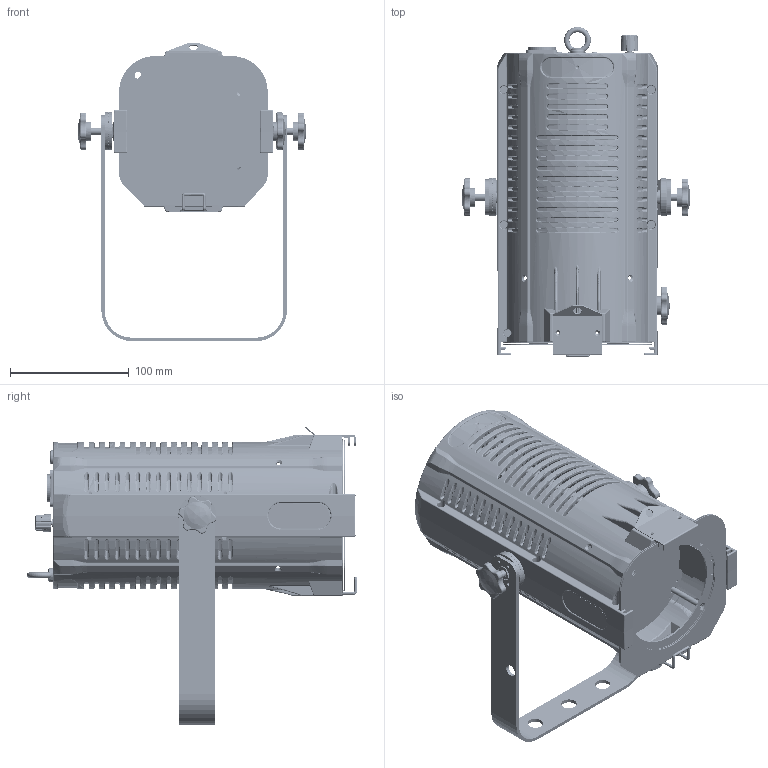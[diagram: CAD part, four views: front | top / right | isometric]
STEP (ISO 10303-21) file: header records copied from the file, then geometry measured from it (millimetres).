
FILE_DESCRIPTION (( 'STEP AP214' ), '1' );
FILE_NAME ('100W聚光灯（二合一）.STEP', '2025-03-19T05:53:18', ( '' ), ( '' ), 'SwSTEP 2.0', 'SolidWorks 2023', '' );
FILE_SCHEMA (( 'AUTOMOTIVE_DESIGN' ));
Length unit declared in the file: millimetre
Products named in the file (31): 滚齿-通孔; 100W聚光灯-新; 100W聚光灯-灯提手齿轮固定板新; 100W聚光灯-色片固定板; 贴纸（右）; 按钮帽; 100W聚光灯-卡侬公座; 100W聚光灯-灯提手; 100W聚光灯-直线导轨; 100W聚光灯-透镜; 100W聚光灯-弹簧卡扣; 滚齿-M6; 100W聚光灯-弹簧固定板; 100W聚光灯-遮光板; 100W聚光灯-调光模块; 100W聚光灯-限位板 - 新; 提手固定件A; M5黑色吊环; 100W聚光灯-控制面板固定件; 100W聚光灯-卡侬母座; 100W聚光灯-调光旋钮帽; 100W聚光灯-缩紧旋钮; 100W聚光灯（二合一）; 显示屏亚克力板; 色片夹; 100W聚光灯-按键开关; 100W聚光灯-控制面板（不带吊环）; 贴纸; 100W聚光灯-电源插口; 100W聚光灯塑料壳; 100W聚光灯-显示屏
Assembly tree (38 placements, depth 2):
  100W聚光灯（二合一）
    100W聚光灯塑料壳  x2
    100W聚光灯-显示屏
    100W聚光灯-调光模块
    100W聚光灯-调光旋钮帽
    100W聚光灯-卡侬公座
    100W聚光灯-卡侬母座
    100W聚光灯-电源插口
    100W聚光灯-透镜
    100W聚光灯-灯提手
    100W聚光灯-色片固定板
    100W聚光灯-缩紧旋钮  x3
    100W聚光灯-弹簧卡扣
    100W聚光灯-弹簧固定板
    100W聚光灯-按键开关
    100W聚光灯-控制面板固定件
    100W聚光灯-遮光板
    100W聚光灯-限位板 - 新
    100W聚光灯-新
    色片夹
    贴纸
    按钮帽  x4
    显示屏亚克力板
    100W聚光灯-控制面板（不带吊环）
    100W聚光灯-灯提手齿轮固定板新  x2
    滚齿-M6
    滚齿-通孔
    提手固定件A
    贴纸（右）
    100W聚光灯-直线导轨  x2
    M5黑色吊环
Bounding box: 192.47 x 277.65 x 250.82 mm (x, y, z)
Volume: 411511.6 mm3; surface area: 456130.7 mm2
Topology: 39 solids, 40 shells, 7512 faces, 20341 edges, 12748 vertices
Faces by surface type: plane 3210, bspline 2046, cylinder 1535, cone 480, torus 165, sphere 76
Full cylindrical faces by diameter (mm): 1.6 x4, 2.4 x8, 2.5 x28, 3.2 x20, 3.3 x5, 3.4 x2, 4.2 x4, 5 x5, 5.2 x1, 5.6 x2, 6 x3, 6.5 x1, 6.6 x8, 7.223 x1, 7.5 x1, 10 x2, 12 x1, 12.5 x1, 13 x7, 32 x3, 89 x1, 90 x1, 91 x1, 100 x2
Entity records: 276672 total; most frequent: CARTESIAN_POINT 116414, ORIENTED_EDGE 27736, DIRECTION 17785, EDGE_CURVE 13868, VERTEX_POINT 8843, LINE 6067, VECTOR 6067, EDGE_LOOP 5947
